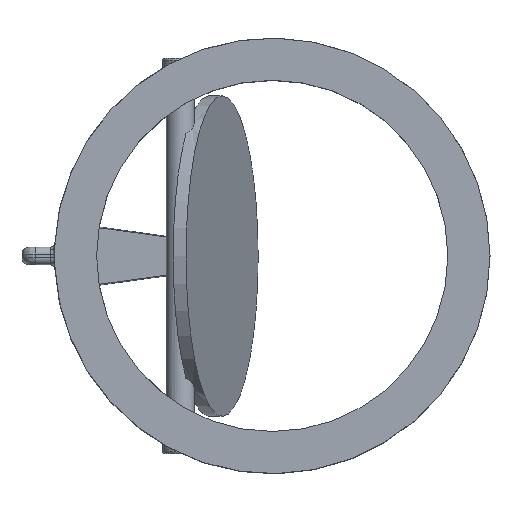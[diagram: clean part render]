
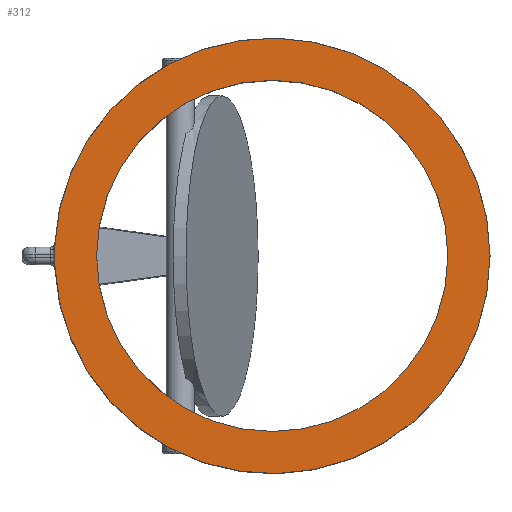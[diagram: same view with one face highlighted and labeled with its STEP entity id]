
A CAD part, top view. The second image highlights one B-rep face of the part: STEP entity #312.
In plain terms, the highlighted planar face has unit normal (0, 0, 1).
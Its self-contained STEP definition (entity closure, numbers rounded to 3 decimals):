
#312 = ADVANCED_FACE( '', ( #864, #865 ), #866, .F. );
#864 = FACE_OUTER_BOUND( '', #1786, .T. );
#865 = FACE_BOUND( '', #1787, .T. );
#866 = PLANE( '', #1788 );
#1786 = EDGE_LOOP( '', ( #14446, #14447, #14448, #14449 ) );
#1787 = EDGE_LOOP( '', ( #14450 ) );
#1788 = AXIS2_PLACEMENT_3D( '', #14451, #14452, #14453 );
#14446 = ORIENTED_EDGE( '', *, *, #16391, .F. );
#14447 = ORIENTED_EDGE( '', *, *, #16392, .F. );
#14448 = ORIENTED_EDGE( '', *, *, #16393, .F. );
#14449 = ORIENTED_EDGE( '', *, *, #16361, .F. );
#14450 = ORIENTED_EDGE( '', *, *, #16394, .F. );
#14451 = CARTESIAN_POINT( '', ( 0., 0., 70. ) );
#14452 = DIRECTION( '', ( 0., 0., -1. ) );
#14453 = DIRECTION( '', ( -1., 0., 0. ) );
#16361 = EDGE_CURVE( '', #17270, #17268, #17272, .T. );
#16391 = EDGE_CURVE( '', #17324, #17270, #17325, .T. );
#16392 = EDGE_CURVE( '', #17326, #17324, #17327, .T. );
#16393 = EDGE_CURVE( '', #17268, #17326, #17328, .T. );
#16394 = EDGE_CURVE( '', #17329, #17329, #17330, .T. );
#17268 = VERTEX_POINT( '', #18870 );
#17270 = VERTEX_POINT( '', #18872 );
#17272 = CIRCLE( '', #18874, 248. );
#17324 = VERTEX_POINT( '', #19396 );
#17325 = CIRCLE( '', #19397, 248. );
#17326 = VERTEX_POINT( '', #19398 );
#17327 = CIRCLE( '', #19399, 248. );
#17328 = CIRCLE( '', #19400, 248. );
#17329 = VERTEX_POINT( '', #19401 );
#17330 = CIRCLE( '', #19402, 200. );
#18870 = CARTESIAN_POINT( '', ( -247.992, 1.968, 70. ) );
#18872 = CARTESIAN_POINT( '', ( -247.992, -1.968, 70. ) );
#18874 = AXIS2_PLACEMENT_3D( '', #28901, #28902, #28903 );
#19396 = CARTESIAN_POINT( '', ( -247.794, -10.103, 70. ) );
#19397 = AXIS2_PLACEMENT_3D( '', #28904, #28905, #28906 );
#19398 = CARTESIAN_POINT( '', ( -247.794, 10.103, 70. ) );
#19399 = AXIS2_PLACEMENT_3D( '', #28907, #28908, #28909 );
#19400 = AXIS2_PLACEMENT_3D( '', #28910, #28911, #28912 );
#19401 = CARTESIAN_POINT( '', ( 0., -200., 70. ) );
#19402 = AXIS2_PLACEMENT_3D( '', #28913, #28914, #28915 );
#28901 = CARTESIAN_POINT( '', ( 0., 0., 70. ) );
#28902 = DIRECTION( '', ( 0., 0., -1. ) );
#28903 = DIRECTION( '', ( 1., 0., 0. ) );
#28904 = CARTESIAN_POINT( '', ( 0., 0., 70. ) );
#28905 = DIRECTION( '', ( 0., 0., -1. ) );
#28906 = DIRECTION( '', ( 1., 0., 0. ) );
#28907 = CARTESIAN_POINT( '', ( 0., 0., 70. ) );
#28908 = DIRECTION( '', ( 0., 0., -1. ) );
#28909 = DIRECTION( '', ( 1., 0., 0. ) );
#28910 = CARTESIAN_POINT( '', ( 0., 0., 70. ) );
#28911 = DIRECTION( '', ( 0., 0., -1. ) );
#28912 = DIRECTION( '', ( 1., 0., 0. ) );
#28913 = CARTESIAN_POINT( '', ( 0., 0., 70. ) );
#28914 = DIRECTION( '', ( 0., 0., 1. ) );
#28915 = DIRECTION( '', ( 0., -1., 0. ) );
